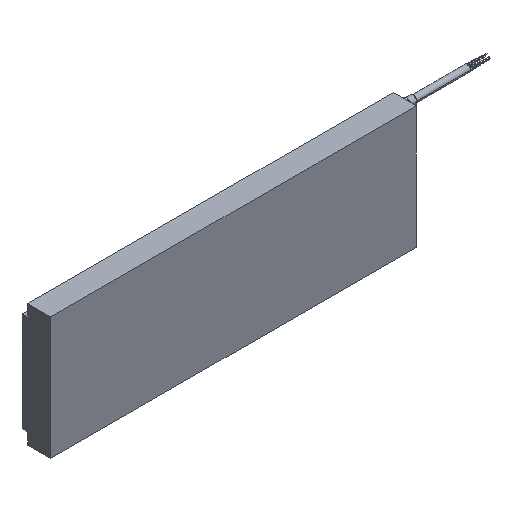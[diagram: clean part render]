
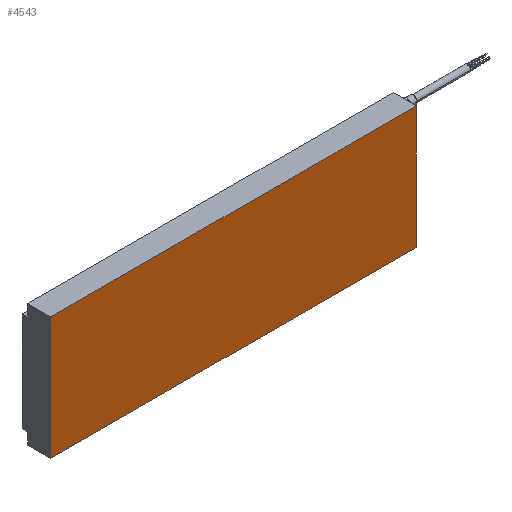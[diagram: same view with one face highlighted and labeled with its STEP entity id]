
A CAD part, isometric view. The second image highlights one B-rep face of the part: STEP entity #4543.
In plain terms, the highlighted planar face has unit normal (0, -1, 0).
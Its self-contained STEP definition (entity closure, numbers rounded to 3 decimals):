
#29=DIRECTION('',(0.,0.,-1.));
#30=VECTOR('',#29,185.);
#31=CARTESIAN_POINT('',(-276.1,0.,92.5));
#32=LINE('',#31,#30);
#33=DIRECTION('',(1.,0.,0.));
#34=VECTOR('',#33,552.2);
#35=CARTESIAN_POINT('',(-276.1,0.,-92.5));
#36=LINE('',#35,#34);
#37=DIRECTION('',(1.,0.,0.));
#38=VECTOR('',#37,552.2);
#39=CARTESIAN_POINT('',(-276.1,0.,92.5));
#40=LINE('',#39,#38);
#2477=DIRECTION('',(0.,0.,-1.));
#2478=VECTOR('',#2477,185.);
#2479=CARTESIAN_POINT('',(276.1,0.,92.5));
#2480=LINE('',#2479,#2478);
#3445=CARTESIAN_POINT('',(-276.1,0.,-92.5));
#3447=VERTEX_POINT('',#3445);
#3459=CARTESIAN_POINT('',(-276.1,0.,92.5));
#3460=VERTEX_POINT('',#3459);
#3461=CARTESIAN_POINT('',(276.1,0.,-92.5));
#3463=VERTEX_POINT('',#3461);
#3475=CARTESIAN_POINT('',(276.1,0.,92.5));
#3476=VERTEX_POINT('',#3475);
#4530=CARTESIAN_POINT('',(-276.1,0.,92.5));
#4531=DIRECTION('',(0.,-1.,0.));
#4532=DIRECTION('',(0.,0.,-1.));
#4533=AXIS2_PLACEMENT_3D('',#4530,#4531,#4532);
#4534=PLANE('',#4533);
#4535=ORIENTED_EDGE('',*,*,#4510,.F.);
#4537=ORIENTED_EDGE('',*,*,#4536,.T.);
#4539=ORIENTED_EDGE('',*,*,#4538,.T.);
#4540=ORIENTED_EDGE('',*,*,#4521,.F.);
#4541=EDGE_LOOP('',(#4535,#4537,#4539,#4540));
#4542=FACE_OUTER_BOUND('',#4541,.F.);
#4543=ADVANCED_FACE('',(#4542),#4534,.T.);
#4510=EDGE_CURVE('',#3460,#3447,#32,.T.);
#4521=EDGE_CURVE('',#3447,#3463,#36,.T.);
#4536=EDGE_CURVE('',#3460,#3476,#40,.T.);
#4538=EDGE_CURVE('',#3476,#3463,#2480,.T.);
